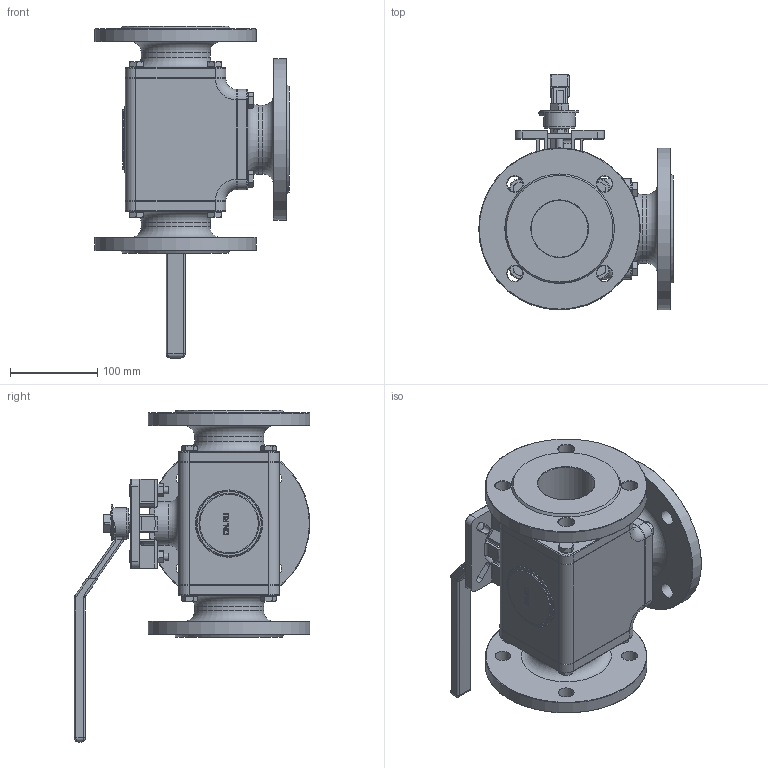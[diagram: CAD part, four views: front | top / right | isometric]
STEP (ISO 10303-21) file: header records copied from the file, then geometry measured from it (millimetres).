
FILE_DESCRIPTION(('STEP AP242'), '1');
FILE_NAME('BV3232P(4pc)-FP-3WT-F-ISO-H Êðàí øàðîâîé DN.ru Äó65 Ðó16', '', ('UNSPECIFIED'), ('UNSPECIFIED'), 'C3D Converter', 'C3D Toolkit', '');
FILE_SCHEMA(('AP242_MANAGED_MODEL_BASED_3D_ENGINEERING_MIM_LF { 1 0 10303 442 1 1 4 }'));
Length unit declared in the file: millimetre
Products named in the file (1): BV3232P(4pc)-FP-3WT-F-ISO-H
Bounding box: 222.5 x 269.89 x 380 mm (x, y, z)
Volume: 4035715.8 mm3; surface area: 461580.1 mm2
Topology: 1 solids, 14 shells, 907 faces, 2182 edges, 1355 vertices
Faces by surface type: plane 459, cylinder 209, cone 134, bspline 58, torus 47
Full cylindrical faces by diameter (mm): 1.336 x1, 1.364 x1, 2 x1, 8 x4, 9 x2, 10 x24, 11 x12, 13 x2, 16 x12, 18 x12, 30 x3, 35 x1, 36 x1, 50 x1, 65 x3, 69 x1, 79 x3, 185 x3
Entity records: 44269 total; most frequent: CARTESIAN_POINT 19653, ORIENTED_EDGE 4106, DIRECTION 4028, EDGE_CURVE 2053, AXIS2_PLACEMENT_3D 1532, VERTEX_POINT 1355, EDGE_LOOP 1180, FACE_BOUND 976
